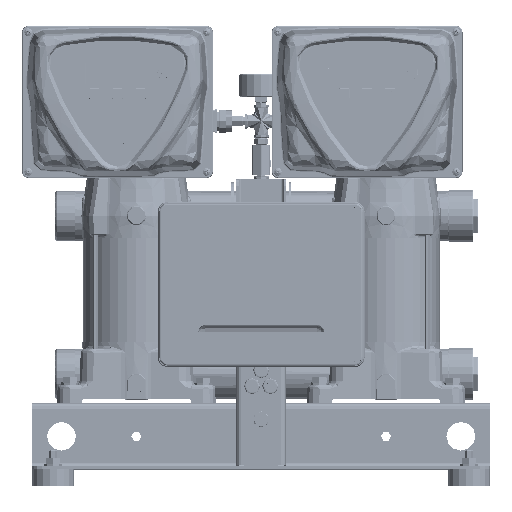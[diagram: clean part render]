
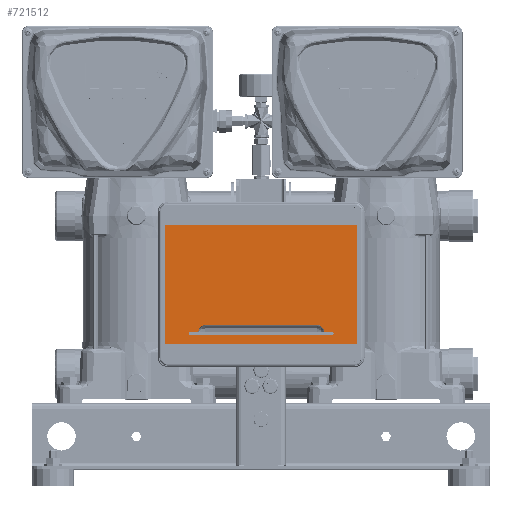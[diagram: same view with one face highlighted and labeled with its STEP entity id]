
A CAD part, top view. The second image highlights one B-rep face of the part: STEP entity #721512.
In plain terms, the highlighted planar face has unit normal (0, 0, 1).
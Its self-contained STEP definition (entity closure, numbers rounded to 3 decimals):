
#718119=DIRECTION('',(1.,0.,0.));
#718120=VECTOR('',#718119,231.);
#718121=CARTESIAN_POINT('',(-115.5,-71.5,112.5));
#718122=LINE('',#718121,#718120);
#718126=DIRECTION('',(0.,-1.,0.));
#718127=VECTOR('',#718126,143.);
#718128=CARTESIAN_POINT('',(-115.5,71.5,112.5));
#718129=LINE('',#718128,#718127);
#718133=DIRECTION('',(-1.,0.,0.));
#718134=VECTOR('',#718133,231.);
#718135=CARTESIAN_POINT('',(115.5,71.5,112.5));
#718136=LINE('',#718135,#718134);
#718140=DIRECTION('',(0.,1.,0.));
#718141=VECTOR('',#718140,143.);
#718142=CARTESIAN_POINT('',(115.5,-71.5,112.5));
#718143=LINE('',#718142,#718141);
#718147=DIRECTION('',(-1.,0.,0.));
#718148=VECTOR('',#718147,10.);
#718149=CARTESIAN_POINT('',(-75.85,-57.2,112.5));
#718150=LINE('',#718149,#718148);
#718154=CARTESIAN_POINT('',(-85.85,-58.85,112.5));
#718155=DIRECTION('',(0.,0.,1.));
#718156=DIRECTION('',(0.,1.,0.));
#718157=AXIS2_PLACEMENT_3D('',#718154,#718155,#718156);
#718162=DIRECTION('',(1.,0.,0.));
#718163=VECTOR('',#718162,171.7);
#718164=CARTESIAN_POINT('',(-85.85,-60.5,112.5));
#718165=LINE('',#718164,#718163);
#718169=CARTESIAN_POINT('',(85.85,-58.85,112.5));
#718170=DIRECTION('',(0.,0.,1.));
#718171=DIRECTION('',(0.,-1.,0.));
#718172=AXIS2_PLACEMENT_3D('',#718169,#718170,#718171);
#718177=DIRECTION('',(-1.,0.,0.));
#718178=VECTOR('',#718177,10.);
#718179=CARTESIAN_POINT('',(85.85,-57.2,112.5));
#718180=LINE('',#718179,#718178);
#718184=CARTESIAN_POINT('',(67.15,-57.2,112.5));
#718185=DIRECTION('',(0.,0.,-1.));
#718186=DIRECTION('',(0.,1.,0.));
#718187=AXIS2_PLACEMENT_3D('',#718184,#718185,#718186);
#718192=DIRECTION('',(1.,0.,0.));
#718193=VECTOR('',#718192,134.3);
#718194=CARTESIAN_POINT('',(-67.15,-48.5,112.5));
#718195=LINE('',#718194,#718193);
#718199=CARTESIAN_POINT('',(-67.15,-57.2,112.5));
#718200=DIRECTION('',(0.,0.,-1.));
#718201=DIRECTION('',(-1.,0.,0.));
#718202=AXIS2_PLACEMENT_3D('',#718199,#718200,#718201);
#718900=CARTESIAN_POINT('',(-115.5,-71.5,112.5));
#718901=CARTESIAN_POINT('',(115.5,-71.5,112.5));
#718902=VERTEX_POINT('',#718900);
#718903=VERTEX_POINT('',#718901);
#718904=CARTESIAN_POINT('',(115.5,71.5,112.5));
#718905=VERTEX_POINT('',#718904);
#718906=CARTESIAN_POINT('',(-115.5,71.5,112.5));
#718907=VERTEX_POINT('',#718906);
#718932=CARTESIAN_POINT('',(-85.85,-60.5,112.5));
#718933=CARTESIAN_POINT('',(85.85,-60.5,112.5));
#718934=VERTEX_POINT('',#718932);
#718935=VERTEX_POINT('',#718933);
#718936=CARTESIAN_POINT('',(85.85,-57.2,112.5));
#718937=VERTEX_POINT('',#718936);
#718938=CARTESIAN_POINT('',(-85.85,-57.2,112.5));
#718939=VERTEX_POINT('',#718938);
#718956=CARTESIAN_POINT('',(-75.85,-57.2,112.5));
#718957=CARTESIAN_POINT('',(-67.15,-48.5,112.5));
#718958=VERTEX_POINT('',#718956);
#718959=VERTEX_POINT('',#718957);
#718960=CARTESIAN_POINT('',(67.15,-48.5,112.5));
#718961=VERTEX_POINT('',#718960);
#718962=CARTESIAN_POINT('',(75.85,-57.2,112.5));
#718963=VERTEX_POINT('',#718962);
#721480=CARTESIAN_POINT('',(0.,0.,112.5));
#721481=DIRECTION('',(0.,0.,1.));
#721482=DIRECTION('',(1.,0.,0.));
#721483=AXIS2_PLACEMENT_3D('',#721480,#721481,#721482);
#721484=PLANE('',#721483);
#721485=ORIENTED_EDGE('',*,*,#721458,.F.);
#721487=ORIENTED_EDGE('',*,*,#721486,.F.);
#721489=ORIENTED_EDGE('',*,*,#721488,.F.);
#721491=ORIENTED_EDGE('',*,*,#721490,.F.);
#721492=EDGE_LOOP('',(#721485,#721487,#721489,#721491));
#721493=FACE_OUTER_BOUND('',#721492,.F.);
#721495=ORIENTED_EDGE('',*,*,#721494,.T.);
#721497=ORIENTED_EDGE('',*,*,#721496,.T.);
#721499=ORIENTED_EDGE('',*,*,#721498,.T.);
#721501=ORIENTED_EDGE('',*,*,#721500,.T.);
#721503=ORIENTED_EDGE('',*,*,#721502,.T.);
#721505=ORIENTED_EDGE('',*,*,#721504,.F.);
#721507=ORIENTED_EDGE('',*,*,#721506,.F.);
#721509=ORIENTED_EDGE('',*,*,#721508,.F.);
#721510=EDGE_LOOP('',(#721495,#721497,#721499,#721501,#721503,#721505,#721507,
#721509));
#721511=FACE_BOUND('',#721510,.F.);
#718158=CIRCLE('',#718157,1.65);
#718173=CIRCLE('',#718172,1.65);
#718188=CIRCLE('',#718187,8.7);
#718203=CIRCLE('',#718202,8.7);
#721458=EDGE_CURVE('',#718902,#718903,#718122,.T.);
#721486=EDGE_CURVE('',#718907,#718902,#718129,.T.);
#721488=EDGE_CURVE('',#718905,#718907,#718136,.T.);
#721490=EDGE_CURVE('',#718903,#718905,#718143,.T.);
#721494=EDGE_CURVE('',#718958,#718939,#718150,.T.);
#721496=EDGE_CURVE('',#718939,#718934,#718158,.T.);
#721498=EDGE_CURVE('',#718934,#718935,#718165,.T.);
#721500=EDGE_CURVE('',#718935,#718937,#718173,.T.);
#721502=EDGE_CURVE('',#718937,#718963,#718180,.T.);
#721504=EDGE_CURVE('',#718961,#718963,#718188,.T.);
#721506=EDGE_CURVE('',#718959,#718961,#718195,.T.);
#721508=EDGE_CURVE('',#718958,#718959,#718203,.T.);
#721512=ADVANCED_FACE('',(#721493,#721511),#721484,.T.);
